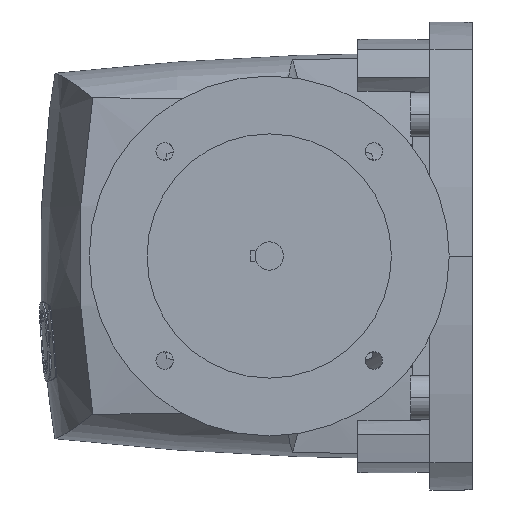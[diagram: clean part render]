
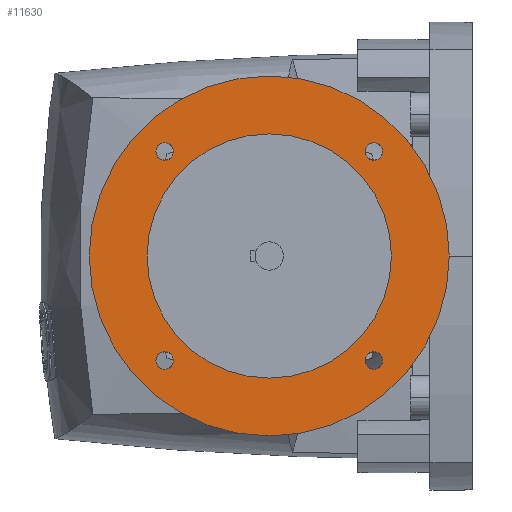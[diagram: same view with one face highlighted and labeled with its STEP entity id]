
A CAD part, left-side view. The second image highlights one B-rep face of the part: STEP entity #11630.
In plain terms, the highlighted planar face has unit normal (-1, 0, 0).
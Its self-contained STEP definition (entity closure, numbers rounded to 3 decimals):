
#2465=CARTESIAN_POINT('',(-123.5,79.,0.));
#2466=DIRECTION('',(1.,0.,0.));
#2467=DIRECTION('',(0.,-1.,0.));
#2468=AXIS2_PLACEMENT_3D('',#2465,#2466,#2467);
#2470=CARTESIAN_POINT('',(-123.5,79.,0.));
#2471=DIRECTION('',(1.,0.,0.));
#2472=DIRECTION('',(0.,1.,0.));
#2473=AXIS2_PLACEMENT_3D('',#2470,#2471,#2472);
#2475=CARTESIAN_POINT('',(-123.5,79.,0.));
#2476=DIRECTION('',(-1.,0.,0.));
#2477=DIRECTION('',(0.,-1.,0.));
#2478=AXIS2_PLACEMENT_3D('',#2475,#2476,#2477);
#2480=CARTESIAN_POINT('',(-123.5,79.,0.));
#2481=DIRECTION('',(-1.,0.,0.));
#2482=DIRECTION('',(0.,1.,0.));
#2483=AXIS2_PLACEMENT_3D('',#2480,#2481,#2482);
#2485=CARTESIAN_POINT('',(-123.5,119.659,40.659));
#2486=DIRECTION('',(-1.,0.,0.));
#2487=DIRECTION('',(0.,0.,1.));
#2488=AXIS2_PLACEMENT_3D('',#2485,#2486,#2487);
#2490=CARTESIAN_POINT('',(-123.5,119.659,40.659));
#2491=DIRECTION('',(-1.,0.,0.));
#2492=DIRECTION('',(0.,0.,-1.));
#2493=AXIS2_PLACEMENT_3D('',#2490,#2491,#2492);
#2495=CARTESIAN_POINT('',(-123.5,119.659,-40.659));
#2496=DIRECTION('',(-1.,0.,0.));
#2497=DIRECTION('',(0.,0.,1.));
#2498=AXIS2_PLACEMENT_3D('',#2495,#2496,#2497);
#2500=CARTESIAN_POINT('',(-123.5,119.659,-40.659));
#2501=DIRECTION('',(-1.,0.,0.));
#2502=DIRECTION('',(0.,0.,-1.));
#2503=AXIS2_PLACEMENT_3D('',#2500,#2501,#2502);
#2505=CARTESIAN_POINT('',(-123.5,38.341,-40.659));
#2506=DIRECTION('',(-1.,0.,0.));
#2507=DIRECTION('',(0.,0.,1.));
#2508=AXIS2_PLACEMENT_3D('',#2505,#2506,#2507);
#2510=CARTESIAN_POINT('',(-123.5,38.341,-40.659));
#2511=DIRECTION('',(-1.,0.,0.));
#2512=DIRECTION('',(0.,0.,-1.));
#2513=AXIS2_PLACEMENT_3D('',#2510,#2511,#2512);
#2515=CARTESIAN_POINT('',(-123.5,38.341,40.659));
#2516=DIRECTION('',(-1.,0.,0.));
#2517=DIRECTION('',(0.,0.,1.));
#2518=AXIS2_PLACEMENT_3D('',#2515,#2516,#2517);
#2520=CARTESIAN_POINT('',(-123.5,38.341,40.659));
#2521=DIRECTION('',(-1.,0.,0.));
#2522=DIRECTION('',(0.,0.,-1.));
#2523=AXIS2_PLACEMENT_3D('',#2520,#2521,#2522);
#7662=CARTESIAN_POINT('',(-123.5,119.659,-44.059));
#7663=CARTESIAN_POINT('',(-123.5,119.659,-37.259));
#7664=VERTEX_POINT('',#7662);
#7665=VERTEX_POINT('',#7663);
#7670=CARTESIAN_POINT('',(-123.5,9.,0.));
#7671=CARTESIAN_POINT('',(-123.5,149.,0.));
#7672=VERTEX_POINT('',#7670);
#7673=VERTEX_POINT('',#7671);
#7674=CARTESIAN_POINT('',(-123.5,31.5,0.));
#7675=CARTESIAN_POINT('',(-123.5,126.5,0.));
#7676=VERTEX_POINT('',#7674);
#7677=VERTEX_POINT('',#7675);
#7678=CARTESIAN_POINT('',(-123.5,119.659,44.059));
#7679=CARTESIAN_POINT('',(-123.5,119.659,37.259));
#7680=VERTEX_POINT('',#7678);
#7681=VERTEX_POINT('',#7679);
#7682=CARTESIAN_POINT('',(-123.5,38.341,-37.259));
#7683=CARTESIAN_POINT('',(-123.5,38.341,-44.059));
#7684=VERTEX_POINT('',#7682);
#7685=VERTEX_POINT('',#7683);
#7686=CARTESIAN_POINT('',(-123.5,38.341,44.059));
#7687=CARTESIAN_POINT('',(-123.5,38.341,37.259));
#7688=VERTEX_POINT('',#7686);
#7689=VERTEX_POINT('',#7687);
#11590=CARTESIAN_POINT('',(-123.5,79.,0.));
#11591=DIRECTION('',(1.,0.,0.));
#11592=DIRECTION('',(0.,-1.,0.));
#11593=AXIS2_PLACEMENT_3D('',#11590,#11591,#11592);
#11594=PLANE('',#11593);
#11596=ORIENTED_EDGE('',*,*,#11595,.T.);
#11598=ORIENTED_EDGE('',*,*,#11597,.T.);
#11599=EDGE_LOOP('',(#11596,#11598));
#11600=FACE_OUTER_BOUND('',#11599,.F.);
#11602=ORIENTED_EDGE('',*,*,#11601,.T.);
#11604=ORIENTED_EDGE('',*,*,#11603,.T.);
#11605=EDGE_LOOP('',(#11602,#11604));
#11606=FACE_BOUND('',#11605,.F.);
#11608=ORIENTED_EDGE('',*,*,#11607,.T.);
#11610=ORIENTED_EDGE('',*,*,#11609,.T.);
#11611=EDGE_LOOP('',(#11608,#11610));
#11612=FACE_BOUND('',#11611,.F.);
#11614=ORIENTED_EDGE('',*,*,#11613,.T.);
#11615=ORIENTED_EDGE('',*,*,#11575,.T.);
#11616=EDGE_LOOP('',(#11614,#11615));
#11617=FACE_BOUND('',#11616,.F.);
#11619=ORIENTED_EDGE('',*,*,#11618,.T.);
#11621=ORIENTED_EDGE('',*,*,#11620,.T.);
#11622=EDGE_LOOP('',(#11619,#11621));
#11623=FACE_BOUND('',#11622,.F.);
#11625=ORIENTED_EDGE('',*,*,#11624,.T.);
#11627=ORIENTED_EDGE('',*,*,#11626,.T.);
#11628=EDGE_LOOP('',(#11625,#11627));
#11629=FACE_BOUND('',#11628,.F.);
#11630=ADVANCED_FACE('',(#11600,#11606,#11612,#11617,#11623,#11629),#11594,.F.);
#2469=CIRCLE('',#2468,70.);
#2474=CIRCLE('',#2473,70.);
#2479=CIRCLE('',#2478,47.5);
#2484=CIRCLE('',#2483,47.5);
#2489=CIRCLE('',#2488,3.4);
#2494=CIRCLE('',#2493,3.4);
#2499=CIRCLE('',#2498,3.4);
#2504=CIRCLE('',#2503,3.4);
#2509=CIRCLE('',#2508,3.4);
#2514=CIRCLE('',#2513,3.4);
#2519=CIRCLE('',#2518,3.4);
#2524=CIRCLE('',#2523,3.4);
#11575=EDGE_CURVE('',#7664,#7665,#2504,.T.);
#11595=EDGE_CURVE('',#7672,#7673,#2469,.T.);
#11597=EDGE_CURVE('',#7673,#7672,#2474,.T.);
#11601=EDGE_CURVE('',#7676,#7677,#2479,.T.);
#11603=EDGE_CURVE('',#7677,#7676,#2484,.T.);
#11607=EDGE_CURVE('',#7680,#7681,#2489,.T.);
#11609=EDGE_CURVE('',#7681,#7680,#2494,.T.);
#11613=EDGE_CURVE('',#7665,#7664,#2499,.T.);
#11618=EDGE_CURVE('',#7684,#7685,#2509,.T.);
#11620=EDGE_CURVE('',#7685,#7684,#2514,.T.);
#11624=EDGE_CURVE('',#7688,#7689,#2519,.T.);
#11626=EDGE_CURVE('',#7689,#7688,#2524,.T.);
